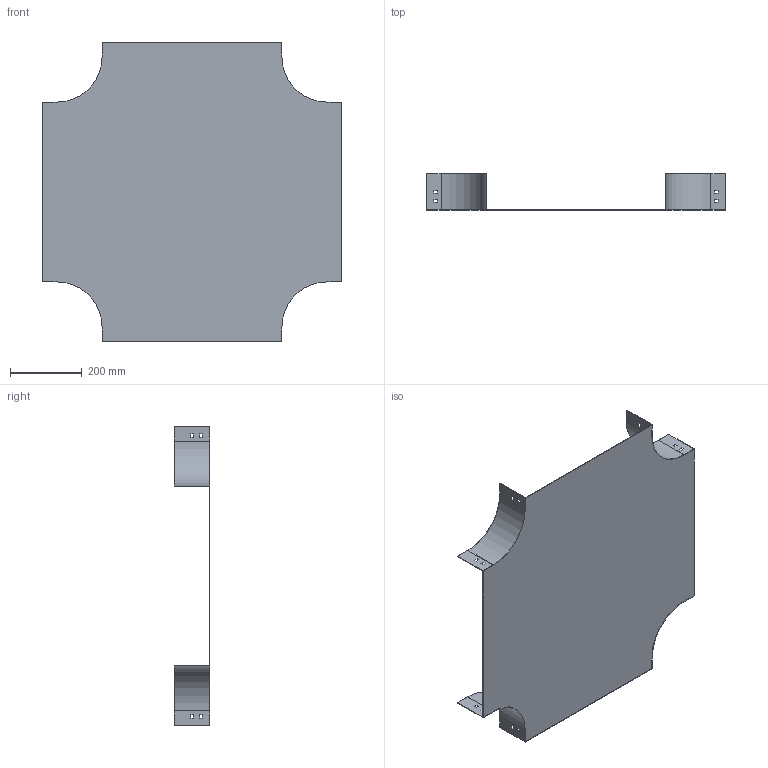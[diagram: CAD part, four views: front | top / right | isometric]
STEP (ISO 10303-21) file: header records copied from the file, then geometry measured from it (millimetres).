
FILE_DESCRIPTION (( 'STEP AP214' ), '1' );
FILE_NAME ('PC_501.step', '2025-07-16T09:22:41', ( '' ), ( '' ), 'SwSTEP 2.0', 'SolidWorks 2023', '' );
FILE_SCHEMA (( 'AUTOMOTIVE_DESIGN' ));
Length unit declared in the file: millimetre
Products named in the file (1): PC_501
Bounding box: 830 x 100 x 830 mm (x, y, z)
Volume: 1052457.8 mm3; surface area: 1409933.1 mm2
Topology: 1 solids, 1 shells, 98 faces, 288 edges, 192 vertices
Faces by surface type: plane 90, cylinder 8
Entity records: 3295 total; most frequent: CARTESIAN_POINT 579, ORIENTED_EDGE 576, DIRECTION 502, EDGE_CURVE 288, VECTOR 272, LINE 272, VERTEX_POINT 192, EDGE_LOOP 130
